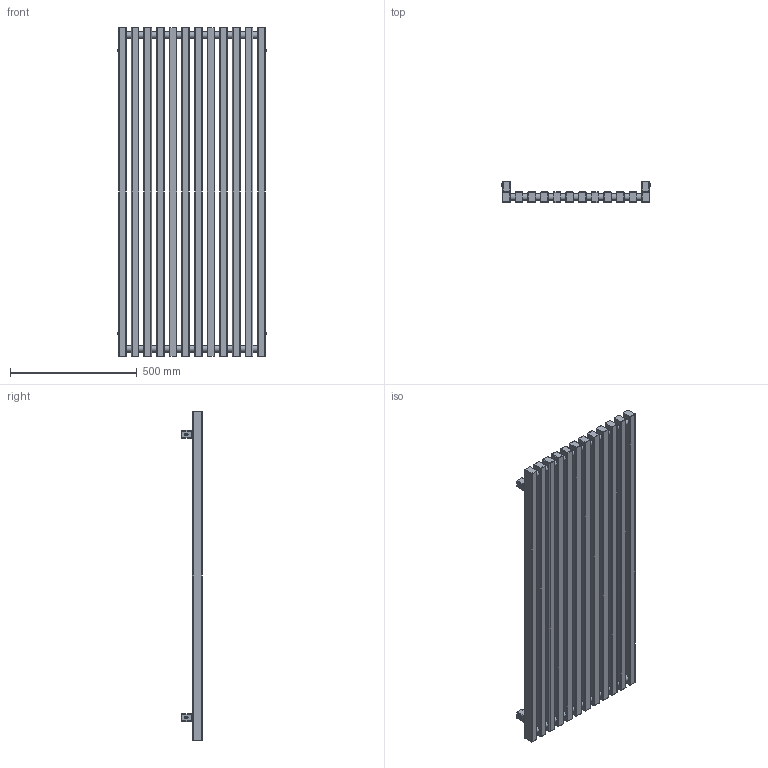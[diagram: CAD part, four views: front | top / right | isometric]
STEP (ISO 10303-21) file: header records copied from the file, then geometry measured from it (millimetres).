
FILE_DESCRIPTION((''),'2;1');
FILE_NAME('Z:\R\G\P\RGP029 - Grzejnik Triga ( ZET)\Work\Inventor\Triga v1.1\Marketing\AutoCad 3D\G-TR-XX-MK-XX-13-68-ZX.stp','2012-07-26T12:59:35',('DawPi'),(''),'Autodesk Inventor 2012','Autodesk Inventor 2012','');
FILE_SCHEMA(('AUTOMOTIVE_DESIGN { 1 0 10303 214 1 1 1 1 }'));
Length unit declared in the file: millimetre
Products named in the file (3): G-TR-XX-MK-XX-13-68-ZX; MMT42
Assembly tree (5 placements, depth 2):
  G-TR-XX-MK-XX-13-68-ZX
    G-TR-XX-MK-XX-13-68-ZX
    MMT42  x4
Bounding box: 586 x 82 x 1300 mm (x, y, z)
Volume: 18950078.5 mm3; surface area: 2175581.9 mm2
Topology: 5 solids, 5 shells, 541 faces, 1217 edges, 731 vertices
Faces by surface type: cylinder 225, plane 183, bspline 96, cone 24, torus 13
Full cylindrical faces by diameter (mm): 4.134 x4, 4.509 x4, 10 x4, 11.445 x1, 12 x4, 18.631 x2, 25 x22
Entity records: 18359 total; most frequent: CARTESIAN_POINT 9498, DIRECTION 1970, ORIENTED_EDGE 1692, EDGE_CURVE 846, AXIS2_PLACEMENT_3D 810, VERTEX_POINT 522, EDGE_LOOP 508, CIRCLE 492
